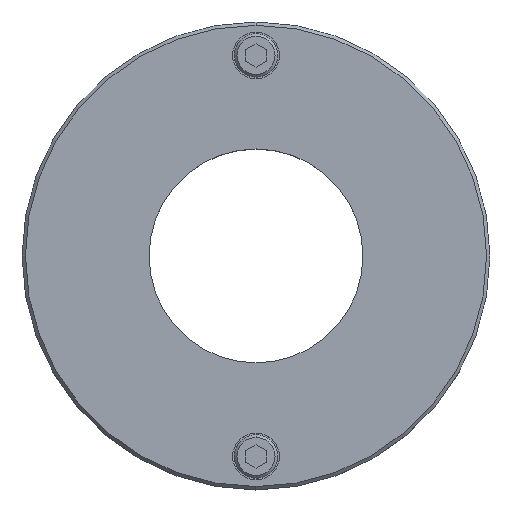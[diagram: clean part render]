
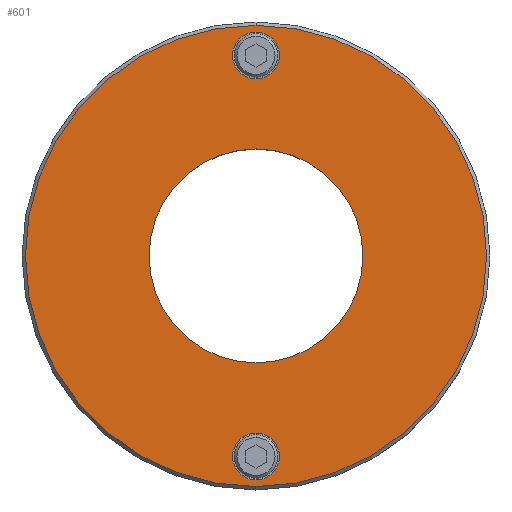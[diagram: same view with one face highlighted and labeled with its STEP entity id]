
A CAD part, top view. The second image highlights one B-rep face of the part: STEP entity #601.
In plain terms, the highlighted planar face has unit normal (0, 0, 1).
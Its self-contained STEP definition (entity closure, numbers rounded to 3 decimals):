
#124=VERTEX_POINT(' ',#125);
#125=CARTESIAN_POINT('',(0.,32.,20.));
#126=VERTEX_POINT(' ',#127);
#127=CARTESIAN_POINT('',(0.,-32.,20.));
#136=VERTEX_POINT(' ',#137);
#137=CARTESIAN_POINT('',(0.,67.,20.));
#138=VERTEX_POINT(' ',#139);
#139=CARTESIAN_POINT('',(0.,53.,20.));
#144=VERTEX_POINT(' ',#145);
#145=CARTESIAN_POINT('',(0.,-53.,20.));
#146=VERTEX_POINT(' ',#147);
#147=CARTESIAN_POINT('',(0.,-67.,20.));
#156=VERTEX_POINT(' ',#157);
#157=CARTESIAN_POINT('',(0.,69.,20.));
#158=VERTEX_POINT(' ',#159);
#159=CARTESIAN_POINT('',(0.,-69.,20.));
#218=CIRCLE('',#219,32.);
#219=AXIS2_PLACEMENT_3D('',#220,#221,#222);
#220=CARTESIAN_POINT('',(0.,0.,20.));
#221=DIRECTION('',(0.,0.,-1.));
#222=DIRECTION('',(-1.,0.,0.));
#223=EDGE_CURVE(' ',#124,#126,#218,.T.);
#224=CIRCLE('',#225,32.);
#225=AXIS2_PLACEMENT_3D('',#226,#227,#228);
#226=CARTESIAN_POINT('',(0.,0.,20.));
#227=DIRECTION('',(0.,0.,-1.));
#228=DIRECTION('',(1.,0.,0.));
#229=EDGE_CURVE(' ',#126,#124,#224,.T.);
#274=CIRCLE('',#275,7.);
#275=AXIS2_PLACEMENT_3D('',#276,#277,#278);
#276=CARTESIAN_POINT('',(0.,60.,20.));
#277=DIRECTION('',(0.,0.,1.));
#278=DIRECTION('',(1.,0.,0.));
#279=EDGE_CURVE(' ',#136,#138,#274,.T.);
#296=CIRCLE('',#297,7.);
#297=AXIS2_PLACEMENT_3D('',#298,#299,#300);
#298=CARTESIAN_POINT('',(0.,60.,20.));
#299=DIRECTION('',(0.,0.,1.));
#300=DIRECTION('',(-1.,0.,0.));
#301=EDGE_CURVE(' ',#138,#136,#296,.T.);
#308=CIRCLE('',#309,7.);
#309=AXIS2_PLACEMENT_3D('',#310,#311,#312);
#310=CARTESIAN_POINT('',(0.,-60.,20.));
#311=DIRECTION('',(0.,0.,1.));
#312=DIRECTION('',(1.,0.,0.));
#313=EDGE_CURVE(' ',#144,#146,#308,.T.);
#330=CIRCLE('',#331,7.);
#331=AXIS2_PLACEMENT_3D('',#332,#333,#334);
#332=CARTESIAN_POINT('',(0.,-60.,20.));
#333=DIRECTION('',(0.,0.,1.));
#334=DIRECTION('',(-1.,0.,0.));
#335=EDGE_CURVE(' ',#146,#144,#330,.T.);
#364=CIRCLE('',#365,69.);
#365=AXIS2_PLACEMENT_3D('',#366,#367,#368);
#366=CARTESIAN_POINT('',(0.,0.,20.));
#367=DIRECTION('',(0.,0.,1.));
#368=DIRECTION('',(1.,0.,0.));
#369=EDGE_CURVE(' ',#158,#156,#364,.F.);
#370=CIRCLE('',#371,69.);
#371=AXIS2_PLACEMENT_3D('',#372,#373,#374);
#372=CARTESIAN_POINT('',(0.,0.,20.));
#373=DIRECTION('',(0.,0.,1.));
#374=DIRECTION('',(-1.,0.,0.));
#375=EDGE_CURVE(' ',#156,#158,#370,.F.);
#580=ORIENTED_EDGE('',*,*,#369,.F.);
#581=ORIENTED_EDGE('',*,*,#375,.F.);
#582=EDGE_LOOP('',(#580,#581));
#583=FACE_OUTER_BOUND('',#582,.T.);
#584=ORIENTED_EDGE('',*,*,#335,.F.);
#585=ORIENTED_EDGE('',*,*,#313,.F.);
#586=EDGE_LOOP('',(#584,#585));
#587=FACE_BOUND('',#586,.T.);
#588=ORIENTED_EDGE('',*,*,#301,.F.);
#589=ORIENTED_EDGE('',*,*,#279,.F.);
#590=EDGE_LOOP('',(#588,#589));
#591=FACE_BOUND('',#590,.T.);
#592=ORIENTED_EDGE('',*,*,#223,.T.);
#593=ORIENTED_EDGE('',*,*,#229,.T.);
#594=EDGE_LOOP('',(#592,#593));
#595=FACE_BOUND('',#594,.T.);
#596=PLANE('',#597);
#597=AXIS2_PLACEMENT_3D('',#598,#599,#600);
#598=CARTESIAN_POINT('',(70.,0.,20.));
#599=DIRECTION('',(0.,0.,1.));
#600=DIRECTION('',(0.,1.,0.));
#601=ADVANCED_FACE('',(#583,#587,#591,#595),#596,.T.);
